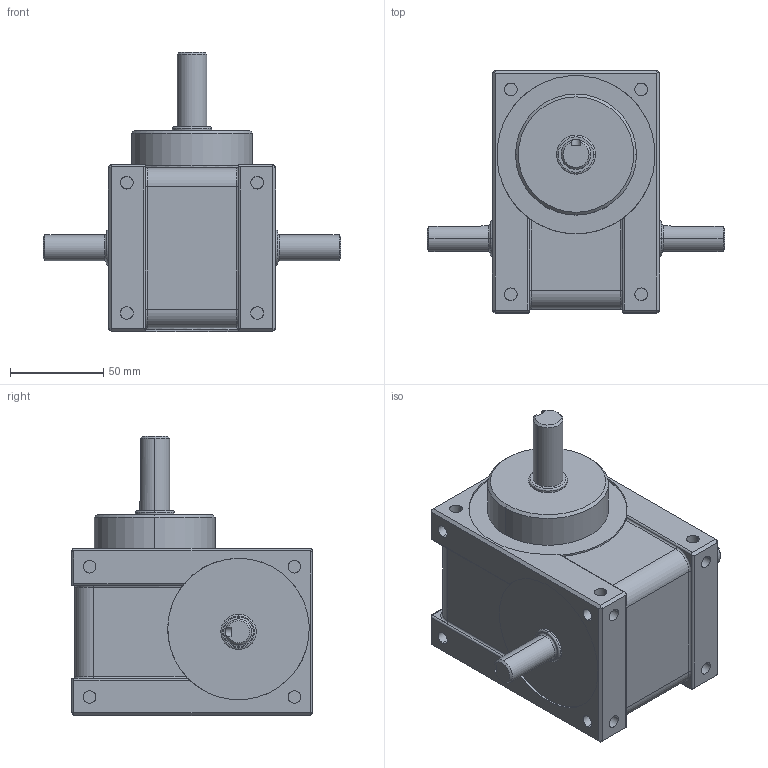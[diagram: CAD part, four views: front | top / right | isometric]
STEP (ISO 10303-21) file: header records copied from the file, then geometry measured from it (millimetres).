
FILE_DESCRIPTION((''),'2;1');
FILE_NAME('45DS','2015-01-15T',('松仔'),(''),'PRO/ENGINEER BY PARAMETRIC TECHNOLOGY CORPORATION, 2013430','PRO/ENGINEER BY PARAMETRIC TECHNOLOGY CORPORATION, 2013430','');
FILE_SCHEMA(('CONFIG_CONTROL_DESIGN'));
Length unit declared in the file: millimetre
Products named in the file (1): 45DS
Bounding box: 160 x 130 x 150 mm (x, y, z)
Volume: 1062137.5 mm3; surface area: 76405.4 mm2
Topology: 1 solids, 1 shells, 262 faces, 691 edges, 430 vertices
Faces by surface type: cylinder 157, plane 82, torus 18, cone 5
Entity records: 8898 total; most frequent: CARTESIAN_POINT 2627, ORIENTED_EDGE 1382, DIRECTION 1193, EDGE_CURVE 691, AXIS2_PLACEMENT_3D 465, VERTEX_POINT 430, EDGE_LOOP 293, VECTOR 263
